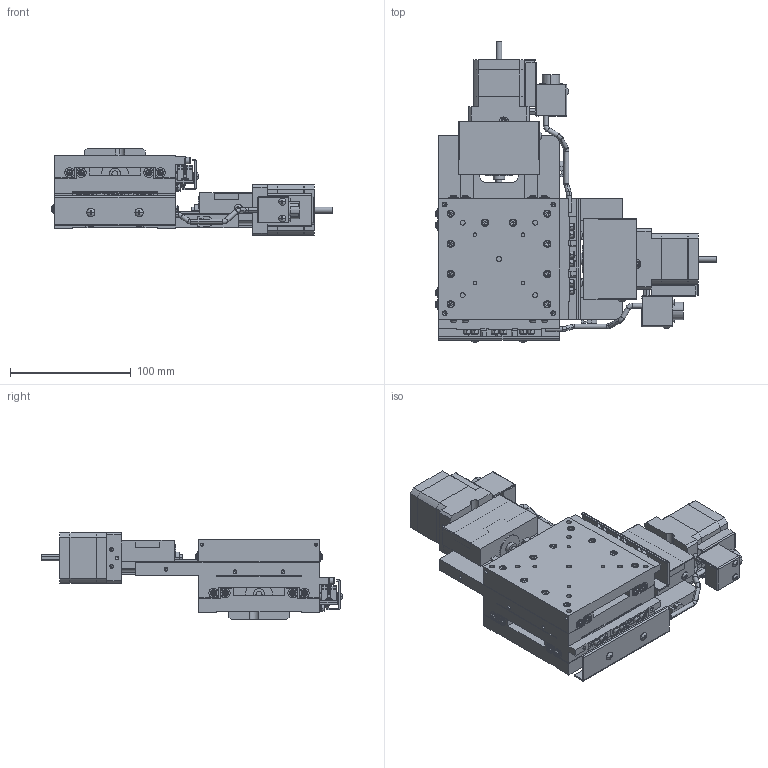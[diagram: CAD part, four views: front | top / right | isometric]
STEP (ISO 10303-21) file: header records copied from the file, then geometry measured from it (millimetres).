
FILE_DESCRIPTION (( 'STEP AP203' ), '1' );
FILE_NAME ('YA10A-R102-RRR.STEP', '2019-03-08T08:27:37', ( '' ), ( '' ), 'SwSTEP 2.0', 'SolidWorks 2018', '' );
FILE_SCHEMA (( 'CONFIG_CONTROL_DESIGN' ));
Length unit declared in the file: millimetre
Products named in the file (4): table; YA10A-R102-RRR; base; second table
Assembly tree (3 placements, depth 2):
  YA10A-R102-RRR
    table
    second table
    base
Bounding box: 232.48 x 249.09 x 72 mm (x, y, z)
Volume: 941628 mm3; surface area: 253504.6 mm2
Topology: 3 solids, 9 shells, 4151 faces, 10273 edges, 6276 vertices
Faces by surface type: plane 2485, cylinder 978, cone 552, torus 68, sphere 68
Entity records: 123021 total; most frequent: CARTESIAN_POINT 22157, DIRECTION 21937, ORIENTED_EDGE 20210, EDGE_CURVE 10105, AXIS2_PLACEMENT_3D 7824, VECTOR 6289, LINE 6289, VERTEX_POINT 6276
